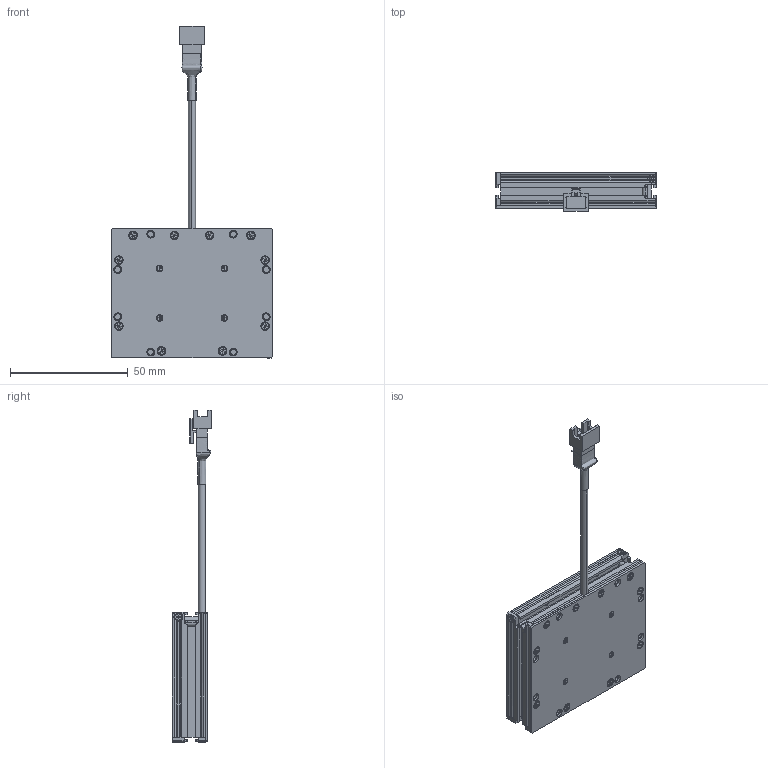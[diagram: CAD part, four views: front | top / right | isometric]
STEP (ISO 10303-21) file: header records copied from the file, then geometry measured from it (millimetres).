
FILE_DESCRIPTION (( 'STEP AP214' ), '1' );
FILE_NAME ('TMDF3002D101A_VDF-5542.STEP', '2023-03-22T02:43:14', ( '' ), ( '' ), 'SwSTEP 2.0', 'SolidWorks 2018', '' );
FILE_SCHEMA (( 'AUTOMOTIVE_DESIGN' ));
Length unit declared in the file: millimetre
Products named in the file (1): TMDF3002D101A_VDF-5542
Bounding box: 68 x 16.55 x 140.74 mm (x, y, z)
Surface area: 24530.4 mm2 (no closed solid volume)
Topology: 0 solids, 37 shells, 678 faces, 2003 edges, 1368 vertices
Faces by surface type: plane 456, cylinder 166, cone 54, bspline 2
Entity records: 31340 total; most frequent: CARTESIAN_POINT 5590, DIRECTION 3733, ORIENTED_EDGE 3602, EDGE_CURVE 2003, VECTOR 1459, LINE 1459, VERTEX_POINT 1368, AXIS2_PLACEMENT_3D 1137
